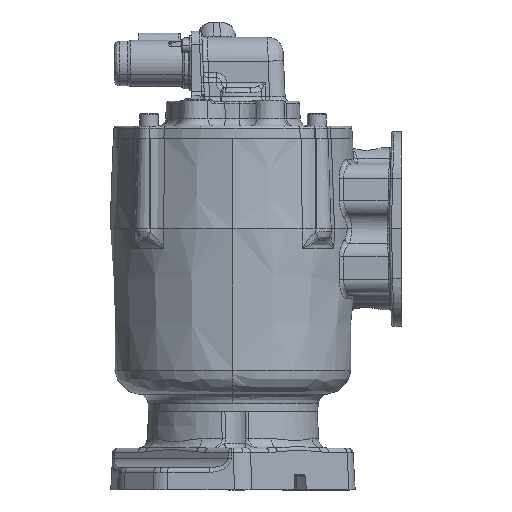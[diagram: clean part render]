
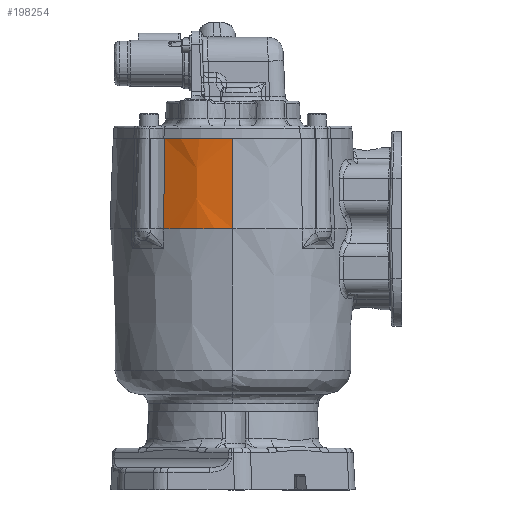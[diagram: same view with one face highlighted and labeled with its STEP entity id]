
A CAD part, left-side view. The second image highlights one B-rep face of the part: STEP entity #198254.
In plain terms, the highlighted conical face has half-angle 2 degrees and reference radius 78.232 mm.
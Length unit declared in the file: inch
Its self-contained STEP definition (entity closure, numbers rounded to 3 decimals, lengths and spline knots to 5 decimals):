
#9231 = VERTEX_POINT ( 'NONE', #105879 ) ;
#11914 = DIRECTION ( 'NONE',  ( -1., 0., 0. ) ) ;
#12307 = CARTESIAN_POINT ( 'NONE',  ( -3.79389, 5.06598, 0. ) ) ;
#14290 = CARTESIAN_POINT ( 'NONE',  ( -3.79389, 5.06598, 0. ) ) ;
#18453 = EDGE_LOOP ( 'NONE', ( #240442, #45745, #241563, #174299 ) ) ;
#25995 = DIRECTION ( 'NONE',  ( 0., 0., -1. ) ) ;
#30037 = AXIS2_PLACEMENT_3D ( 'NONE', #46589, #25995, #109670 ) ;
#30619 = CARTESIAN_POINT ( 'NONE',  ( -3.93479, 4.67028, 2.2645 ) ) ;
#33524 = CARTESIAN_POINT ( 'NONE',  ( -3.76676, 5.05766, 0.7762 ) ) ;
#38917 = CARTESIAN_POINT ( 'NONE',  ( -3.71437, 5.04203, 2.2645 ) ) ;
#41126 = CARTESIAN_POINT ( 'NONE',  ( -4.23872, 3.64208, 2.2645 ) ) ;
#43835 = CARTESIAN_POINT ( 'NONE',  ( -4.20889, 3.83029, 2.2645 ) ) ;
#45189 = CARTESIAN_POINT ( 'NONE',  ( -4.25092, 3.3296, 2.2645 ) ) ;
#45745 = ORIENTED_EDGE ( 'NONE', *, *, #103221, .F. ) ;
#46589 = CARTESIAN_POINT ( 'NONE',  ( -1.25, 3.3296, 0. ) ) ;
#49057 = FACE_OUTER_BOUND ( 'NONE', #18453, .T. ) ;
#52567 = CARTESIAN_POINT ( 'NONE',  ( -4.06439, 4.37233, 2.2645 ) ) ;
#55275 = CARTESIAN_POINT ( 'NONE',  ( -4.1064, 4.24965, 2.2645 ) ) ;
#60023 = VERTEX_POINT ( 'NONE', #227594 ) ;
#69449 = CIRCLE ( 'NONE', #30037, 3.08 ) ;
#75863 = CARTESIAN_POINT ( 'NONE',  ( -4.08634, 4.31008, 2.2645 ) ) ;
#82272 = CARTESIAN_POINT ( 'NONE',  ( -4.2128, 3.80642, 2.2645 ) ) ;
#93737 = CARTESIAN_POINT ( 'NONE',  ( -3.93578, 4.66831, 2.2645 ) ) ;
#95073 = CARTESIAN_POINT ( 'NONE',  ( -4.09689, 4.27877, 2.2645 ) ) ;
#97724 = CARTESIAN_POINT ( 'NONE',  ( -4.25092, 3.3296, 2.2645 ) ) ;
#103221 = EDGE_CURVE ( 'NONE', #9231, #148376, #208096, .T. ) ;
#105879 = CARTESIAN_POINT ( 'NONE',  ( -3.71437, 5.04203, 2.2645 ) ) ;
#108265 = CARTESIAN_POINT ( 'NONE',  ( -4.21356, 3.80171, 2.2645 ) ) ;
#109670 = DIRECTION ( 'NONE',  ( 0., -1., 0. ) ) ;
#115642 = CARTESIAN_POINT ( 'NONE',  ( -3.92248, 4.69471, 2.2645 ) ) ;
#116155 = CARTESIAN_POINT ( 'NONE',  ( -1.25, 3.3296, 0. ) ) ;
#119402 = CONICAL_SURFACE ( 'NONE', #264162, 3.08, 0.035 ) ;
#122991 = EDGE_CURVE ( 'NONE', #9231, #169593, #135806, .T. ) ;
#123399 = CARTESIAN_POINT ( 'NONE',  ( -4.21125, 3.81597, 2.2645 ) ) ;
#134801 = CARTESIAN_POINT ( 'NONE',  ( -3.93275, 4.67436, 2.2645 ) ) ;
#135806 = B_SPLINE_CURVE_WITH_KNOTS ( 'NONE', 3,
 ( #38917, #143125, #33524, #14290 ),
 .UNSPECIFIED., .F., .F.,
 ( 4, 4 ),
 ( 0., 1. ),
 .UNSPECIFIED. ) ;
#136726 = EDGE_CURVE ( 'NONE', #60023, #169593, #69449, .T. ) ;
#143125 = CARTESIAN_POINT ( 'NONE',  ( -3.74025, 5.04967, 1.53103 ) ) ;
#143949 = CARTESIAN_POINT ( 'NONE',  ( -4.16197, 4.06208, 2.2645 ) ) ;
#148003 = CARTESIAN_POINT ( 'NONE',  ( -4.19068, 3.93008, 2.2645 ) ) ;
#148376 = VERTEX_POINT ( 'NONE', #97724 ) ;
#156737 = CARTESIAN_POINT ( 'NONE',  ( -3.97049, 4.59854, 2.2645 ) ) ;
#159471 = CARTESIAN_POINT ( 'NONE',  ( -4.10424, 4.25634, 2.2645 ) ) ;
#169593 = VERTEX_POINT ( 'NONE', #12307 ) ;
#174299 = ORIENTED_EDGE ( 'NONE', *, *, #136726, .F. ) ;
#176008 = CARTESIAN_POINT ( 'NONE',  ( -3.71437, 5.04203, 2.2645 ) ) ;
#178724 = CARTESIAN_POINT ( 'NONE',  ( -4.10205, 4.26307, 2.2645 ) ) ;
#184426 = CARTESIAN_POINT ( 'NONE',  ( -4.33, 3.3296, 0. ) ) ;
#187866 = CARTESIAN_POINT ( 'NONE',  ( -4.20314, 3.86363, 2.2645 ) ) ;
#196599 = CARTESIAN_POINT ( 'NONE',  ( -3.75602, 4.98209, 2.2645 ) ) ;
#198254 = ADVANCED_FACE ( 'NONE', ( #49057 ), #119402, .T. ) ;
#199852 = DIRECTION ( 'NONE',  ( 0., 0., -1. ) ) ;
#205225 = VECTOR ( 'NONE', #266788, 39.37008 ) ;
#206373 = LINE ( 'NONE', #184426, #205225 ) ;
#208096 = B_SPLINE_CURVE_WITH_KNOTS ( 'NONE', 3,
 ( #176008, #196599, #259760, #263805, #219917, #115642, #241866, #134801, #30619, #93737, #156737, #240491, #52567, #75863, #95073, #178724, #159471, #243231, #55275, #253708, #143949, #148003, #187866, #43835, #123399, #82272, #108265, #41126, #231749, #45189 ),
 .UNSPECIFIED., .F., .F.,
 ( 4, 1, 1, 1, 1, 1, 2, 2, 1, 1, 1, 1, 1, 2, 2, 1, 1, 1, 1, 2, 2, 4 ),
 ( 0., 0.0625, 0.09375, 0.10937, 0.11719, 0.12109, 0.12305, 0.125, 0.1875, 0.21875, 0.23437, 0.24219, 0.24609, 0.24805, 0.25, 0.3125, 0.34375, 0.35937, 0.36719, 0.37109, 0.375, 0.5 ),
 .UNSPECIFIED. ) ;
#219917 = CARTESIAN_POINT ( 'NONE',  ( -3.90789, 4.72307, 2.2645 ) ) ;
#227594 = CARTESIAN_POINT ( 'NONE',  ( -4.33, 3.3296, 0. ) ) ;
#230162 = EDGE_CURVE ( 'NONE', #148376, #60023, #206373, .T. ) ;
#231749 = CARTESIAN_POINT ( 'NONE',  ( -4.25092, 3.4863, 2.2645 ) ) ;
#240442 = ORIENTED_EDGE ( 'NONE', *, *, #230162, .F. ) ;
#240491 = CARTESIAN_POINT ( 'NONE',  ( -4.01702, 4.49544, 2.2645 ) ) ;
#241563 = ORIENTED_EDGE ( 'NONE', *, *, #122991, .T. ) ;
#241866 = CARTESIAN_POINT ( 'NONE',  ( -3.92969, 4.68047, 2.2645 ) ) ;
#243231 = CARTESIAN_POINT ( 'NONE',  ( -4.1057, 4.25184, 2.2645 ) ) ;
#253708 = CARTESIAN_POINT ( 'NONE',  ( -4.13082, 4.17366, 2.2645 ) ) ;
#259760 = CARTESIAN_POINT ( 'NONE',  ( -3.81506, 4.89016, 2.2645 ) ) ;
#263805 = CARTESIAN_POINT ( 'NONE',  ( -3.87794, 4.77936, 2.2645 ) ) ;
#264162 = AXIS2_PLACEMENT_3D ( 'NONE', #116155, #199852, #11914 ) ;
#266788 = DIRECTION ( 'NONE',  ( -0.035, 0., -0.999 ) ) ;
